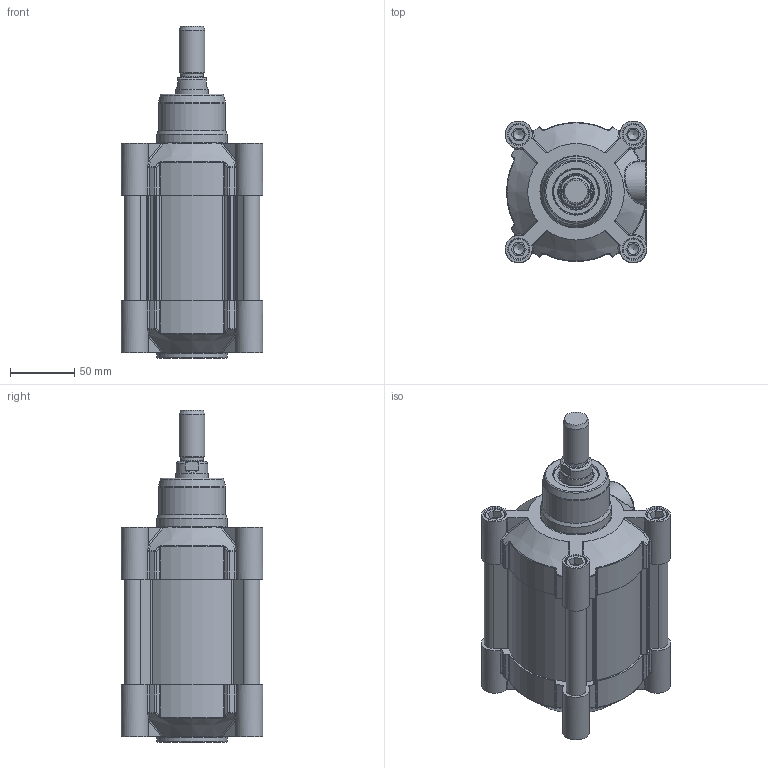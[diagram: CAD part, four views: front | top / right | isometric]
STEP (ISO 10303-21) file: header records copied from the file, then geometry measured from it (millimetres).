
FILE_DESCRIPTION(/* description */ (''),/* implementation_level */ '2;1');
FILE_NAME(/* name */ 'T:\Archivio Inventor\- 00 NUOVI STP PER SITO CON STELO CHE SI MUOVE\SERIE H - U\SERIE HDM\HDM100 - TUBO NUOVO\HDM100.025.GS.M.stp',/* time_stamp */ '2018-08-02T08:52:12+02:00',/* author */ ('carlo.corazza'),/* organization */ (''),/* preprocessor_version */ 'ST-DEVELOPER v16.5',/* originating_system */ 'Autodesk Inventor 2017',/* authorisation */ '');
FILE_SCHEMA (('AUTOMOTIVE_DESIGN { 1 0 10303 214 3 1 1 }'));
Length unit declared in the file: millimetre
Products named in the file (5): HDM100.025.GS.M; TP; TA; STELO-025; CORPO-025
Assembly tree (4 placements, depth 2):
  HDM100.025.GS.M
    TP
    TA
    STELO-025
    CORPO-025
Bounding box: 110 x 110 x 258 mm (x, y, z)
Volume: 824090.7 mm3; surface area: 290895.5 mm2
Topology: 4 solids, 29 shells, 1355 faces, 3135 edges, 1912 vertices
Faces by surface type: plane 408, cylinder 313, bspline 270, torus 126, cone 122, sphere 116
Full cylindrical faces by diameter (mm): 5 x2, 5.9 x2, 6.5 x2, 7.25 x2, 8.376 x8, 9.4 x4, 10 x8, 10.3 x8, 11.8 x4, 11.9 x2, 12 x4, 16 x9, 16.3 x8, 17 x2, 17.5 x1, 18.631 x2, 20 x1, 24.5 x1, 25 x1, 25.8 x1, 25.962 x1, 30 x1, 31.5 x2, 35 x3, 52 x1, 55 x2, 100 x1
Entity records: 43668 total; most frequent: CARTESIAN_POINT 13702, ORIENTED_EDGE 5710, DIRECTION 5644, EDGE_CURVE 2855, AXIS2_PLACEMENT_3D 2293, VERTEX_POINT 1857, EDGE_LOOP 1690, STYLED_ITEM 1359
